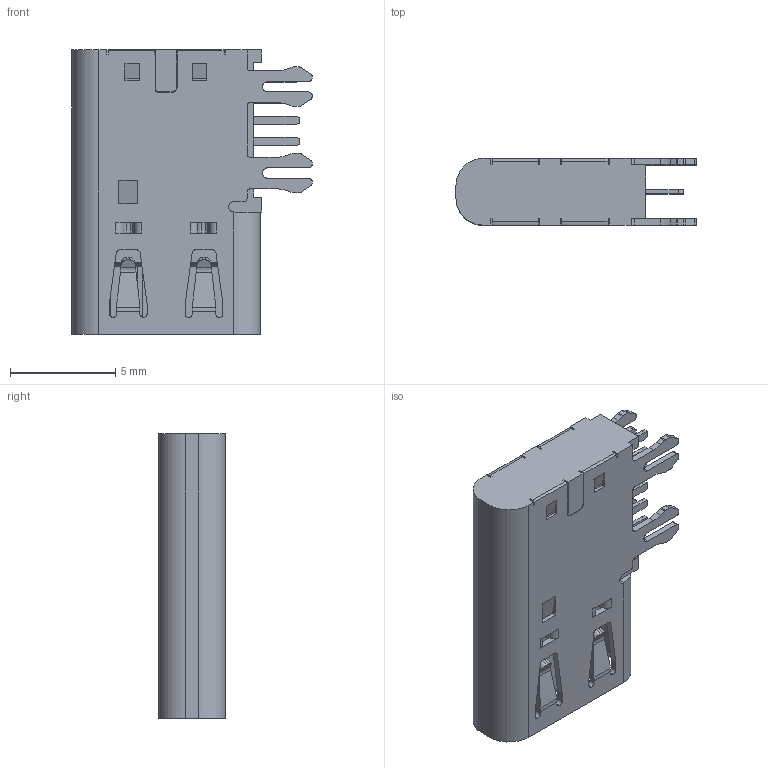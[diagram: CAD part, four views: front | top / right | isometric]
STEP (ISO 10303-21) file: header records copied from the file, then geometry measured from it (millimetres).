
FILE_DESCRIPTION((''),'2;1');
FILE_NAME('TPYE-C_6_PIN','2023-10-27T',('WYH'),(''),'PRO/ENGINEER BY PARAMETRIC TECHNOLOGY CORPORATION, 2013040','PRO/ENGINEER BY PARAMETRIC TECHNOLOGY CORPORATION, 2013040','');
FILE_SCHEMA(('CONFIG_CONTROL_DESIGN'));
Length unit declared in the file: millimetre
Products named in the file (1): TPYE-C_6_PIN
Bounding box: 11.4 x 3.16 x 13.5 mm (x, y, z)
Volume: 284.8 mm3; surface area: 602.6 mm2
Topology: 1 solids, 1 shells, 1015 faces, 2921 edges, 1936 vertices
Faces by surface type: plane 808, cylinder 199, cone 8
Entity records: 33111 total; most frequent: CARTESIAN_POINT 6158, ORIENTED_EDGE 5842, DIRECTION 5266, EDGE_CURVE 2921, VECTOR 2480, LINE 2480, VERTEX_POINT 1936, AXIS2_PLACEMENT_3D 1393
